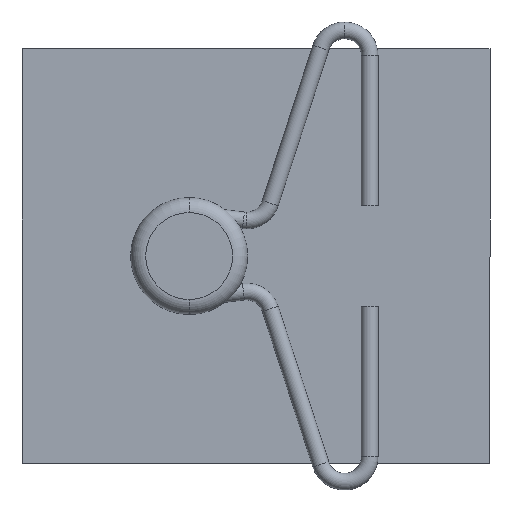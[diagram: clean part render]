
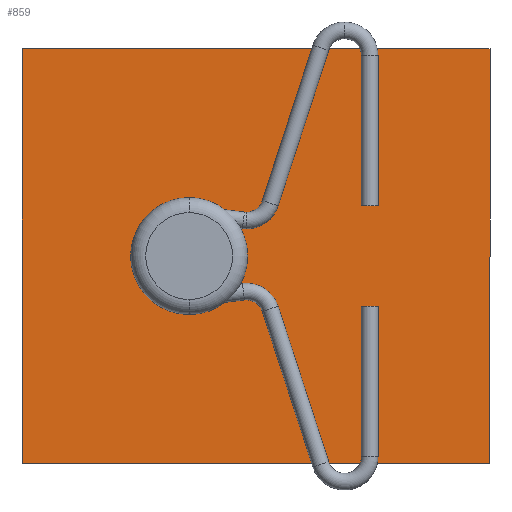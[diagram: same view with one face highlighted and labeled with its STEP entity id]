
A CAD part, front view. The second image highlights one B-rep face of the part: STEP entity #859.
In plain terms, the highlighted planar face has unit normal (0, -1, 0).
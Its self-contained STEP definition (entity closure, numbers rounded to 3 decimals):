
#87 = CARTESIAN_POINT ( 'NONE',  ( 0., -0.5, -12.4 ) ) ;
#108 = CARTESIAN_POINT ( 'NONE',  ( -18., -0.5, 0. ) ) ;
#113 = ORIENTED_EDGE ( 'NONE', *, *, #1263, .F. ) ;
#153 = CARTESIAN_POINT ( 'NONE',  ( 0., -0.5, 12.4 ) ) ;
#175 = LINE ( 'NONE', #401, #1933 ) ;
#200 = CARTESIAN_POINT ( 'NONE',  ( 0., -0.5, 0. ) ) ;
#238 = EDGE_CURVE ( 'NONE', #1401, #1857, #1773, .T. ) ;
#299 = DIRECTION ( 'NONE',  ( -1., 0., 0. ) ) ;
#329 = VECTOR ( 'NONE', #1101, 1000. ) ;
#348 = VERTEX_POINT ( 'NONE', #153 ) ;
#352 = ORIENTED_EDGE ( 'NONE', *, *, #508, .F. ) ;
#401 = CARTESIAN_POINT ( 'NONE',  ( 0., -0.5, 12.4 ) ) ;
#412 = CARTESIAN_POINT ( 'NONE',  ( -18., -0.5, -1.95 ) ) ;
#419 = EDGE_LOOP ( 'NONE', ( #572, #113, #352, #1350 ) ) ;
#433 = PLANE ( 'NONE',  #2102 ) ;
#443 = DIRECTION ( 'NONE',  ( 0., 0., 1. ) ) ;
#479 = VECTOR ( 'NONE', #299, 1000. ) ;
#508 = EDGE_CURVE ( 'NONE', #1545, #348, #2068, .T. ) ;
#511 = AXIS2_PLACEMENT_3D ( 'NONE', #1344, #1307, #1302 ) ;
#544 = VERTEX_POINT ( 'NONE', #412 ) ;
#556 = DIRECTION ( 'NONE',  ( 0., 1., 0. ) ) ;
#572 = ORIENTED_EDGE ( 'NONE', *, *, #238, .F. ) ;
#719 = CARTESIAN_POINT ( 'NONE',  ( -28., -0.5, -12.4 ) ) ;
#750 = VECTOR ( 'NONE', #1462, 1000. ) ;
#859 = ADVANCED_FACE ( 'NONE', ( #1432, #1809 ), #433, .F. ) ;
#904 = DIRECTION ( 'NONE',  ( 0., 0., -1. ) ) ;
#986 = CARTESIAN_POINT ( 'NONE',  ( 0., -0.5, 12.4 ) ) ;
#1101 = DIRECTION ( 'NONE',  ( 0., 0., 1. ) ) ;
#1103 = VERTEX_POINT ( 'NONE', #1299 ) ;
#1193 = LINE ( 'NONE', #719, #329 ) ;
#1220 = EDGE_CURVE ( 'NONE', #544, #1103, #1685, .T. ) ;
#1255 = EDGE_CURVE ( 'NONE', #1857, #1545, #1193, .T. ) ;
#1263 = EDGE_CURVE ( 'NONE', #348, #1401, #175, .T. ) ;
#1299 = CARTESIAN_POINT ( 'NONE',  ( -18., -0.5, 1.95 ) ) ;
#1302 = DIRECTION ( 'NONE',  ( 0., 0., 1. ) ) ;
#1307 = DIRECTION ( 'NONE',  ( 0., 1., 0. ) ) ;
#1344 = CARTESIAN_POINT ( 'NONE',  ( -18., -0.5, 0. ) ) ;
#1350 = ORIENTED_EDGE ( 'NONE', *, *, #1255, .F. ) ;
#1365 = EDGE_LOOP ( 'NONE', ( #1570, #1834 ) ) ;
#1397 = DIRECTION ( 'NONE',  ( 0., 1., 0. ) ) ;
#1401 = VERTEX_POINT ( 'NONE', #1495 ) ;
#1417 = CARTESIAN_POINT ( 'NONE',  ( -28., -0.5, 12.4 ) ) ;
#1432 = FACE_BOUND ( 'NONE', #1365, .T. ) ;
#1462 = DIRECTION ( 'NONE',  ( 1., 0., 0. ) ) ;
#1495 = CARTESIAN_POINT ( 'NONE',  ( 0., -0.5, -12.4 ) ) ;
#1545 = VERTEX_POINT ( 'NONE', #1417 ) ;
#1570 = ORIENTED_EDGE ( 'NONE', *, *, #1902, .T. ) ;
#1593 = DIRECTION ( 'NONE',  ( 0., 0., 1. ) ) ;
#1685 = CIRCLE ( 'NONE', #2018, 1.95 ) ;
#1717 = CIRCLE ( 'NONE', #511, 1.95 ) ;
#1773 = LINE ( 'NONE', #87, #479 ) ;
#1794 = CARTESIAN_POINT ( 'NONE',  ( -28., -0.5, -12.4 ) ) ;
#1809 = FACE_OUTER_BOUND ( 'NONE', #419, .T. ) ;
#1834 = ORIENTED_EDGE ( 'NONE', *, *, #1220, .T. ) ;
#1857 = VERTEX_POINT ( 'NONE', #1794 ) ;
#1902 = EDGE_CURVE ( 'NONE', #1103, #544, #1717, .T. ) ;
#1933 = VECTOR ( 'NONE', #904, 1000. ) ;
#2018 = AXIS2_PLACEMENT_3D ( 'NONE', #108, #1397, #1593 ) ;
#2068 = LINE ( 'NONE', #986, #750 ) ;
#2102 = AXIS2_PLACEMENT_3D ( 'NONE', #200, #556, #443 ) ;
